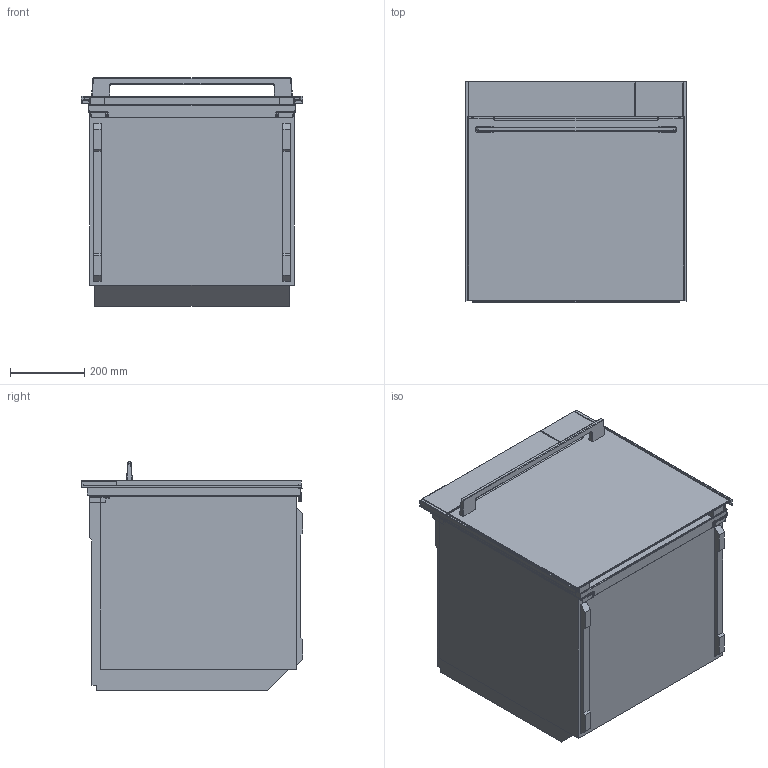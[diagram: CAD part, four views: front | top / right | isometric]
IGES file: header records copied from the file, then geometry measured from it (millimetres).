
Start section: SolidWorks IGES file using analytic representation for surfaces
Global section: file name: E:\3D za kuhinjaše\3D za kuhinjaše-ASKO\507872_OCS8678G\507872_OCS8678G\507872_OCS8678G.IGS; native system: SolidWorks 2016; preprocessor: SolidWorks 2016; author: kristijan.lamesic; date: 170914.113358; units: millimetre
Bounding box: 596.3 x 594.9 x 615.5 mm (x, y, z)
Surface area: 3596203.8 mm2 (no closed solid volume)
Topology: 0 solids, 0 shells, 516 faces, 3988 edges, 3983 vertices
Faces by surface type: bspline 345, revolution 171
